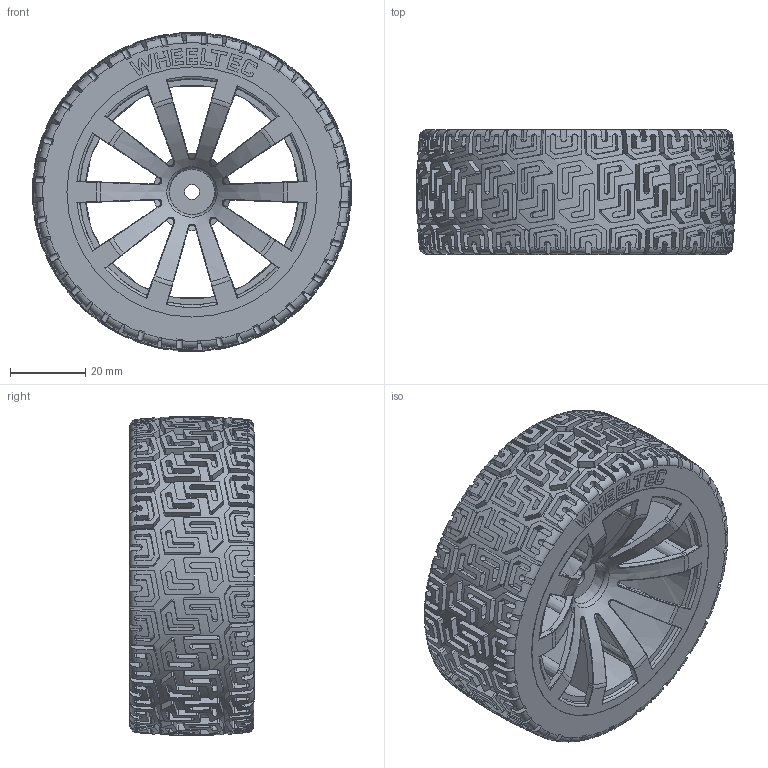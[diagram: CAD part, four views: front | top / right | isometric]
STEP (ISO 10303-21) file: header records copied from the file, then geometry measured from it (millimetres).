
FILE_DESCRIPTION( ('This file contains a STEP AP42 implementation' ,'as created by ZW3D STEP Interface translator.') ,'2;1' );
FILE_NAME( '秷夔陬謫_眻噤85mm.stp' ,'24 514.142837', (''), ('ZWCAD Software Co.'), 'Version 1.0', 'ZW3D to STEP translator', '' );
FILE_SCHEMA(('AUTOMOTIVE_DESIGN { 1 0 10303 214 1 1 1 1 }'));
Length unit declared in the file: millimetre
Products named in the file (2): 0; 秷夔陬謫_眻噤85mm
Bounding box: 84.99 x 33.43 x 84.99 mm (x, y, z)
Volume: 55311.7 mm3; surface area: 58902.9 mm2
Topology: 1 solids, 2 shells, 3079 faces, 8808 edges, 5826 vertices
Faces by surface type: plane 1380, cylinder 858, bspline 659, torus 145, cone 37
Full cylindrical faces by diameter (mm): 4 x1, 60.692 x3, 61.348 x2, 65.335 x2, 66.616 x2
Entity records: 128037 total; most frequent: CARTESIAN_POINT 58132, ORIENTED_EDGE 17616, EDGE_CURVE 8808, DIRECTION 8391, B_SPLINE_CURVE_WITH_KNOTS 6056, VERTEX_POINT 5826, AXIS2_PLACEMENT_3D 3261, EDGE_LOOP 3196
